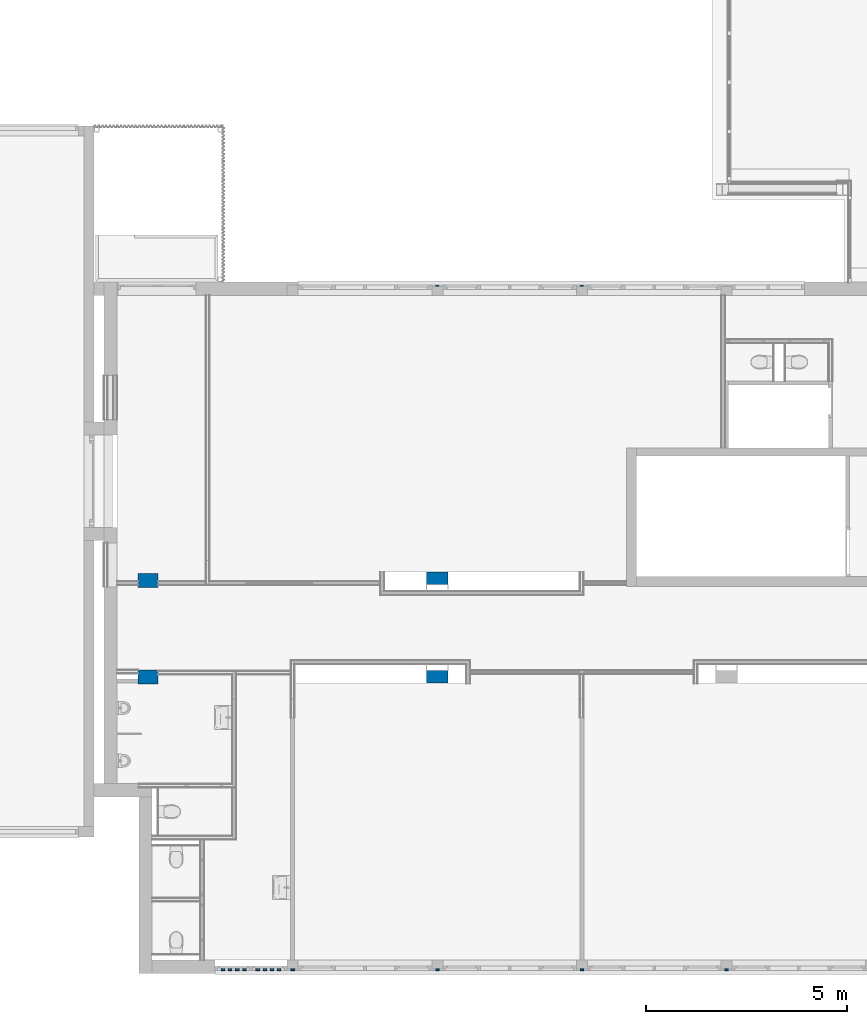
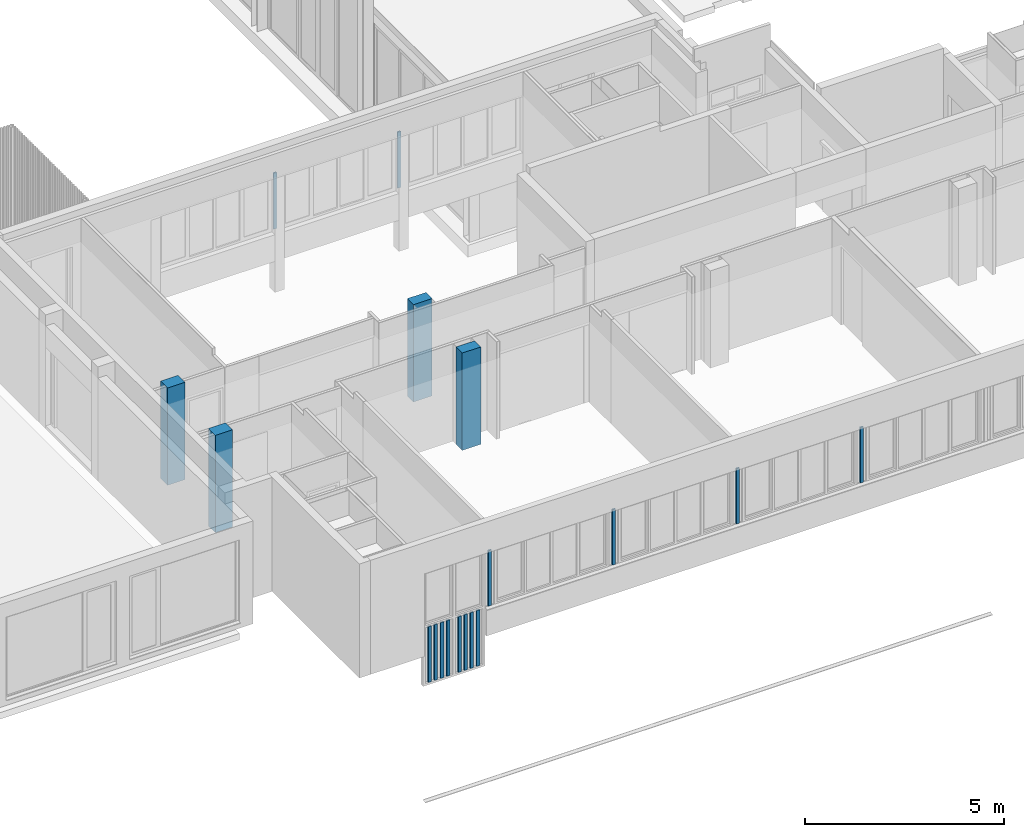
# One storey, part 11 of 99: 18 columns.
"""IFC2X3 building model written with IfcOpenShell, lengths in millimetres."""

from ifc_helpers import new_model, entity, si_unit, converted_unit, derived_unit, money_unit, direction, frame, origin_with_axes, place, context, subcontext, project, spatial, faceted_brep, material, type_object, element, save


model = new_model("IFC2X3")

# Units and contexts
model_context = context("Model", 3, precision=0.01, world=origin_with_axes(), true_north=direction((0.0, 1.0)))
body_context = subcontext(model_context, "Body", "Model", "MODEL_VIEW")
ifc_project = project(units=[si_unit("LENGTHUNIT", "METRE", prefix="MILLI"), si_unit("AREAUNIT", "SQUARE_METRE"), si_unit("VOLUMEUNIT", "CUBIC_METRE"), converted_unit("PLANEANGLEUNIT", "DEGREE", entity("IfcPlaneAngleMeasure", 0.0174532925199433), si_unit("PLANEANGLEUNIT", "RADIAN"), dimensions=[0, 0, 0, 0, 0, 0, 0]), money_unit("EUR"), converted_unit("TIMEUNIT", "Year", entity("IfcTimeMeasure", 31557600.0), si_unit("TIMEUNIT", "SECOND"), dimensions=[0, 0, 1, 0, 0, 0, 0]), si_unit("MASSUNIT", "GRAM", prefix="KILO"), si_unit("THERMODYNAMICTEMPERATUREUNIT", "DEGREE_CELSIUS"), si_unit("LUMINOUSINTENSITYUNIT", "LUMEN"), si_unit("ENERGYUNIT", "JOULE", prefix="MEGA"), derived_unit("THERMALCONDUCTANCEUNIT", [(si_unit("POWERUNIT", "WATT"), 1), (si_unit("LENGTHUNIT", "METRE"), -1), (si_unit("THERMODYNAMICTEMPERATUREUNIT", "KELVIN"), -1)]), derived_unit("SPECIFICHEATCAPACITYUNIT", [(si_unit("ENERGYUNIT", "JOULE"), 1), (si_unit("MASSUNIT", "GRAM", prefix="KILO"), -1), (si_unit("THERMODYNAMICTEMPERATUREUNIT", "KELVIN"), -1)]), derived_unit("MASSDENSITYUNIT", [(si_unit("MASSUNIT", "GRAM", prefix="KILO"), 1), (si_unit("VOLUMEUNIT", "CUBIC_METRE"), -1)])], contexts=[model_context])

# Site, building, storey
site_placement = place(None, origin_with_axes())
site = spatial("IfcSite", under=ifc_project, at=site_placement, Name="Site", CompositionType="ELEMENT")
building_placement = place(site_placement, origin_with_axes())
building = spatial("IfcBuilding", under=site, at=building_placement, Name="Naam gebouw", CompositionType="ELEMENT")
storey_placement = place(building_placement, frame((0.0, 0.0, 7650.0), z_axis=(0.0, 0.0, 1.0), x_axis=(1.0, 0.0, 0.0)))
storey = spatial("IfcBuildingStorey", under=building, at=storey_placement, Name="2e verdieping N", CompositionType="ELEMENT", Elevation=7650.0)

# Columns
ifc_material_1 = material(Name="Metaal - Staal C")
column_type_1 = type_object("IfcColumnType", Name="Metaal - Staal C 90 x 44", PredefinedType="COLUMN")
column_1_placement = place(storey_placement, frame((10800.0, 3207.668707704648, 737.6344147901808), z_axis=(0.0, 0.0, 1.0), x_axis=(1.0, 0.0, 0.0)))
element("IfcColumn", 1, at=column_1_placement, inside=storey, type_object=column_type_1, material=ifc_material_1, Name="_Kolom-x", ObjectType="COLUMN", context=body_context, shape_type="Brep", body=[
    faceted_brep([(44.99999999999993, -21.9999999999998, 0.0), (45.00000000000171, -17.00973599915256, 0.879918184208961), (45.00000000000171, -17.00973599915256, 10.87991818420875), (45.00000000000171, -15.00973599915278, 10.87991818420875), (44.99999999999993, -15.00973599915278, 0.0), (44.99999999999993, 21.9999999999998, 0.0), (44.99999999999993, 21.9999999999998, 1702.36558520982), (44.99999999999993, -21.9999999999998, 1702.36558520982), (-44.99999999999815, -17.00973599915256, 0.879918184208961), (-44.99999999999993, -21.9999999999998, 0.0), (-44.99999999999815, -17.00973599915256, 10.87991818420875), (-44.99999999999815, -15.00973599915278, 10.87991818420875), (-44.99999999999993, -15.00973599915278, 0.0), (-44.99999999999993, 21.9999999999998, 0.0), (-44.99999999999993, 21.9999999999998, 1702.36558520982), (-44.99999999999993, -21.9999999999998, 1702.36558520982)], [[[0, 1, 2, 3, 4, 5, 6, 7]], [[8, 1, 0, 9]], [[10, 2, 1, 8]], [[11, 3, 2, 10]], [[12, 4, 3, 11]], [[5, 4, 12, 13]], [[14, 6, 5, 13]], [[6, 14, 15, 7]], [[15, 9, 0, 7]], [[10, 8, 9, 15, 14, 13, 12, 11]]]),
])
column_2_placement = place(storey_placement, frame((14399.99999999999, 3207.668707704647, 737.6344147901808), z_axis=(0.0, 0.0, 1.0), x_axis=(1.0, 0.0, 0.0)))
element("IfcColumn", 2, at=column_2_placement, inside=storey, type_object=column_type_1, material=ifc_material_1, Name="_Kolom-x", ObjectType="COLUMN", context=body_context, shape_type="Brep", body=[
    faceted_brep([(44.99999999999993, -21.9999999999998, 0.0), (44.99999999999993, -17.00973599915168, 0.879918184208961), (44.99999999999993, -17.00973599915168, 10.87991818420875), (44.99999999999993, -15.0097359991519, 10.87991818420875), (44.99999999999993, -15.0097359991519, 0.0), (44.99999999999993, 21.9999999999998, 0.0), (44.99999999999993, 21.9999999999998, 1702.36558520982), (44.99999999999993, -21.9999999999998, 1702.36558520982), (-44.99999999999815, -17.00973599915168, 0.879918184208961), (-44.99999999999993, -21.9999999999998, 0.0), (-44.99999999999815, -17.00973599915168, 10.87991818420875), (-44.99999999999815, -15.0097359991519, 10.87991818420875), (-44.99999999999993, -15.0097359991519, 0.0), (-44.99999999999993, 21.9999999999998, 0.0), (-44.99999999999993, 21.9999999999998, 1702.36558520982), (-44.99999999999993, -21.9999999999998, 1702.36558520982)], [[[0, 1, 2, 3, 4, 5, 6, 7]], [[8, 1, 0, 9]], [[10, 2, 1, 8]], [[11, 3, 2, 10]], [[12, 4, 3, 11]], [[5, 4, 12, 13]], [[14, 6, 5, 13]], [[6, 14, 15, 7]], [[15, 9, 0, 7]], [[10, 8, 9, 15, 14, 13, 12, 11]]]),
])
column_3_placement = place(storey_placement, frame((3600.000000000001, 3207.668707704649, 737.6344147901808), z_axis=(0.0, 0.0, 1.0), x_axis=(1.0, 0.0, 0.0)))
element("IfcColumn", 3, at=column_3_placement, inside=storey, type_object=column_type_1, material=ifc_material_1, Name="_Kolom-x", ObjectType="COLUMN", context=body_context, shape_type="Brep", body=[
    faceted_brep([(44.99999999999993, -21.9999999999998, 0.0), (45.00000000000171, -17.00973599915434, 0.879918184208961), (45.00000000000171, -17.00973599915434, 10.87991818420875), (45.00000000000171, -15.00973599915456, 10.87991818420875), (44.99999999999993, -15.00973599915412, 0.0), (44.99999999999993, 21.9999999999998, 0.0), (44.99999999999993, 21.9999999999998, 1702.36558520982), (44.99999999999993, -21.9999999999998, 1702.36558520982), (-44.99999999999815, -17.00973599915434, 0.879918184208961), (-44.99999999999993, -21.9999999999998, 0.0), (-44.99999999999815, -17.00973599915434, 10.87991818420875), (-44.99999999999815, -15.00973599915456, 10.87991818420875), (-44.99999999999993, -15.00973599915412, 0.0), (-44.99999999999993, 21.9999999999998, 0.0), (-44.99999999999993, 21.9999999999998, 1702.36558520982), (-44.99999999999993, -21.9999999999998, 1702.36558520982)], [[[0, 1, 2, 3, 4, 5, 6, 7]], [[8, 1, 0, 9]], [[10, 2, 1, 8]], [[11, 3, 2, 10]], [[12, 4, 3, 11]], [[5, 4, 12, 13]], [[14, 6, 5, 13]], [[6, 14, 15, 7]], [[15, 9, 0, 7]], [[10, 8, 9, 15, 14, 13, 12, 11]]]),
])
column_4_placement = place(storey_placement, frame((7200.000000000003, 3207.668707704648, 737.6344147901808), z_axis=(0.0, 0.0, 1.0), x_axis=(1.0, 0.0, 0.0)))
element("IfcColumn", 4, at=column_4_placement, inside=storey, type_object=column_type_1, material=ifc_material_1, Name="_Kolom-x", ObjectType="COLUMN", context=body_context, shape_type="Brep", body=[
    faceted_brep([(44.99999999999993, -21.9999999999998, 0.0), (45.00000000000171, -17.00973599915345, 0.879918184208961), (45.00000000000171, -17.00973599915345, 10.87991818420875), (45.00000000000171, -15.00973599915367, 10.87991818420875), (44.99999999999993, -15.00973599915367, 0.0), (44.99999999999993, 21.9999999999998, 0.0), (44.99999999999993, 21.9999999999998, 1702.36558520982), (44.99999999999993, -21.9999999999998, 1702.36558520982), (-44.99999999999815, -17.00973599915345, 0.879918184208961), (-44.99999999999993, -21.9999999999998, 0.0), (-44.99999999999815, -17.00973599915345, 10.87991818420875), (-44.99999999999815, -15.00973599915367, 10.87991818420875), (-44.99999999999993, -15.00973599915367, 0.0), (-44.99999999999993, 21.9999999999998, 0.0), (-44.99999999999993, 21.9999999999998, 1702.36558520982), (-44.99999999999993, -21.9999999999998, 1702.36558520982)], [[[0, 1, 2, 3, 4, 5, 6, 7]], [[8, 1, 0, 9]], [[10, 2, 1, 8]], [[11, 3, 2, 10]], [[12, 4, 3, 11]], [[5, 4, 12, 13]], [[14, 6, 5, 13]], [[6, 14, 15, 7]], [[15, 9, 0, 7]], [[10, 8, 9, 15, 14, 13, 12, 11]]]),
])
for number, where, z_axis, x_axis, name in (
    (5, (3262.248759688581, 3207.668707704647, -993.0000000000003), (0.0, 0.0, 1.0), (1.0, 0.0, 0.0), "_Kolom-x"),
    (6, (3084.582093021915, 3207.668707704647, -993.0000000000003), (0.0, 0.0, 1.0), (1.0, 0.0, 0.0), "_Kolom-x"),
    (7, (2906.915426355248, 3207.668707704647, -993.0000000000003), (0.0, 0.0, 1.0), (1.0, 0.0, 0.0), "_Kolom-x"),
    (8, (2729.248759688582, 3207.668707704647, -993.0000000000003), (0.0, 0.0, 1.0), (1.0, 0.0, 0.0), "_Kolom-x"),
    (9, (2218.082093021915, 3207.668707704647, -993.0000000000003), (0.0, 0.0, 1.0), (1.0, 0.0, 0.0), "_Kolom-x"),
    (10, (2395.748759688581, 3207.668707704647, -993.0000000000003), (0.0, 0.0, 1.0), (1.0, 0.0, 0.0), "_Kolom-x"),
    (11, (2040.415426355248, 3207.668707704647, -993.0000000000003), (0.0, 0.0, 1.0), (1.0, 0.0, 0.0), "_Kolom-x"),
    (12, (1862.748759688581, 3207.668707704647, -993.0000000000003), (0.0, 0.0, 1.0), (1.0, 0.0, 0.0), "_Kolom-x"),
):
    element("IfcColumn", number, at=place(storey_placement, frame(where, z_axis=z_axis, x_axis=x_axis)), inside=storey, type_object=column_type_1, material=ifc_material_1, Name=name, ObjectType="COLUMN", context=body_context, shape_type="Brep", body=[
        faceted_brep([(-44.99999999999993, -21.9999999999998, 1713.000000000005), (-44.99999999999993, -21.9999999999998, 0.0), (44.99999999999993, -21.9999999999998, 0.0), (44.99999999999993, -21.9999999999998, 1713.000000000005), (-44.99999999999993, 21.9999999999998, 1713.000000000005), (-44.99999999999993, 21.9999999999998, 0.0), (44.99999999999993, 21.9999999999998, 0.0), (44.99999999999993, 21.9999999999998, 1713.000000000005)], [[[0, 1, 2, 3]], [[4, 5, 1, 0]], [[2, 1, 5, 6]], [[3, 2, 6, 7]], [[4, 0, 3, 7]], [[7, 6, 5, 4]]]),
    ])
column_5_placement = place(storey_placement, frame((7199.999999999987, 20233.85731192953, 719.9999999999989), z_axis=(0.0, 0.0, 1.0), x_axis=(-1.0, 0.0, 0.0)))
element("IfcColumn", 13, at=column_5_placement, inside=storey, type_object=column_type_1, material=ifc_material_1, Name="_Kolom-x", ObjectType="COLUMN", context=body_context, shape_type="Brep", body=[
    faceted_brep([(-44.99999999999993, -15.04634950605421, 28.51433297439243), (-44.99999999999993, -17.0463495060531, 28.51433297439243), (-44.99999999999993, -17.0463495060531, 18.51433297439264), (-44.99999999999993, -21.99999999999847, 17.64087073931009), (-44.99999999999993, -21.99999999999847, 1720.000000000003), (-44.99999999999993, 21.99999999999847, 1720.000000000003), (-44.99999999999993, 21.99999999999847, 0.0), (-44.99999999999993, -21.99999999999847, 0.0), (-44.99999999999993, -21.99999999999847, 15.61001751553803), (-44.99999999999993, -15.04634950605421, 16.83613371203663), (44.99999999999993, -17.04633997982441, 28.51433297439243), (44.99999999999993, -15.04633997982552, 28.51433297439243), (44.99999999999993, -17.04633997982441, 18.51433297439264), (44.99999999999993, -21.99999999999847, 17.64086905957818), (44.99999999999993, -21.99999999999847, 1720.000000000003), (44.99999999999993, 21.99999999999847, 1720.000000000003), (44.99999999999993, 21.99999999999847, 0.0), (44.99999999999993, -21.99999999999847, 0.0), (44.99999999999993, -21.99999999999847, 15.61001583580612), (44.99999999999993, -15.04633997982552, 16.83613371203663)], [[[0, 1, 2, 3, 4, 5, 6, 7, 8, 9]], [[10, 1, 0, 11]], [[12, 2, 1, 10]], [[12, 13, 3, 2]], [[4, 3, 13, 14]], [[15, 5, 4, 14]], [[5, 15, 16, 6]], [[16, 17, 7, 6]], [[17, 18, 8, 7]], [[19, 9, 8, 18]], [[11, 0, 9, 19]], [[11, 19, 18, 17, 16, 15, 14, 13, 12, 10]]]),
])
column_6_placement = place(storey_placement, frame((10799.99865604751, 20233.8744985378, 719.9999999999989), z_axis=(0.0, 0.0, 1.0), x_axis=(-1.0, 0.0, 0.0)))
element("IfcColumn", 14, at=column_6_placement, inside=storey, type_object=column_type_1, material=ifc_material_1, Name="_Kolom-x", ObjectType="COLUMN", context=body_context, shape_type="Brep", body=[
    faceted_brep([(-45.00000000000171, -15.02954394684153, 28.51433297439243), (-44.99999999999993, -17.02954394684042, 28.51433297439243), (-44.99999999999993, -17.02954394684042, 18.51433297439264), (-44.99999999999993, -21.99999999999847, 17.63790746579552), (-44.99999999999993, -21.99999999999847, 1720.000000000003), (-44.99999999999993, 21.99999999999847, 1720.000000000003), (-44.99999999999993, 21.99999999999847, 0.0), (-44.99999999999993, -21.99999999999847, 0.0), (-44.99999999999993, -21.99999999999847, 15.60705424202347), (-45.00000000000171, -15.02954394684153, 16.83613371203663), (44.99999999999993, -17.02953442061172, 28.51433297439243), (45.00000000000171, -15.02953442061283, 28.51433297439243), (44.99999999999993, -17.02953442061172, 18.51433297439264), (44.99999999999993, -21.99999999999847, 17.63790578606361), (44.99999999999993, -21.99999999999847, 1720.000000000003), (44.99999999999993, 21.99999999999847, 1720.000000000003), (44.99999999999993, 21.99999999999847, 0.0), (44.99999999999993, -21.99999999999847, 0.0), (44.99999999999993, -21.99999999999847, 15.60705256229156), (45.00000000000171, -15.02953442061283, 16.83613371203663)], [[[0, 1, 2, 3, 4, 5, 6, 7, 8, 9]], [[10, 1, 0, 11]], [[12, 2, 1, 10]], [[12, 13, 3, 2]], [[4, 3, 13, 14]], [[15, 5, 4, 14]], [[5, 15, 16, 6]], [[16, 17, 7, 6]], [[17, 18, 8, 7]], [[19, 9, 8, 18]], [[11, 0, 9, 19]], [[11, 19, 18, 17, 16, 15, 14, 13, 12, 10]]]),
])
ifc_material_2 = material(Name="ALG - CONSTRUCTIEF")
column_type_2 = type_object("IfcColumnType", Name="ALG - CONSTRUCTIEF 500 x 355", PredefinedType="COLUMN")
column_7_placement = place(storey_placement, frame((0.0, 12895.91242510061, -99.99999999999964), z_axis=(0.0, 0.0, 1.0), x_axis=(1.0, 0.0, 0.0)))
element("IfcColumn", 15, at=column_7_placement, inside=storey, type_object=column_type_2, material=ifc_material_2, Name="_Kolom-x", ObjectType="COLUMN", context=body_context, shape_type="Brep", body=[
    faceted_brep([(249.9999999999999, -177.5000000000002, 3089.999999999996), (249.9999999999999, -177.5000000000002, 99.99999999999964), (249.9999999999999, 177.5000000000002, 99.99999999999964), (249.9999999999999, 177.5000000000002, 3089.999999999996), (-250.0000000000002, -177.5000000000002, 3089.999999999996), (-250.0000000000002, -177.5000000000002, 99.99999999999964), (-250.0000000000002, 177.5000000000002, 99.99999999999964), (-250.0000000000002, 177.5000000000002, 3089.999999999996)], [[[0, 1, 2, 3]], [[4, 5, 1, 0]], [[5, 6, 2, 1]], [[3, 2, 6, 7]], [[4, 0, 3, 7]], [[7, 6, 5, 4]]]),
])
column_8_placement = place(storey_placement, frame((0.0, 10495.91242510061, -99.99999999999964), z_axis=(0.0, 0.0, 1.0), x_axis=(1.0, 0.0, 0.0)))
element("IfcColumn", 16, at=column_8_placement, inside=storey, type_object=column_type_2, material=ifc_material_2, Name="_Kolom-x", ObjectType="COLUMN", context=body_context, shape_type="Brep", body=[
    faceted_brep([(250.0, -177.5000000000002, 3089.999999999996), (250.0, -177.5000000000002, 99.99999999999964), (250.0, 177.5000000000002, 99.99999999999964), (250.0, 177.5000000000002, 3089.999999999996), (-250.0, -177.5000000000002, 3089.999999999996), (-250.0, -177.5000000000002, 99.99999999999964), (-250.0, 177.5000000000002, 99.99999999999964), (-250.0, 177.5000000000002, 3089.999999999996)], [[[0, 1, 2, 3]], [[4, 5, 1, 0]], [[5, 6, 2, 1]], [[3, 2, 6, 7]], [[4, 0, 3, 7]], [[7, 6, 5, 4]]]),
])
column_type_3 = type_object("IfcColumnType", Name="ALG - CONSTRUCTIEF 540 x 310", PredefinedType="COLUMN")
for number, where, z_axis, x_axis, name in (
    (17, (7199.999999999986, 12945.85635739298, -99.99999999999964), (0.0, 0.0, 1.0), (1.0, 0.0, 0.0), "_Kolom-x"),
    (18, (7200.0, 10495.91242510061, -99.99999999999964), (0.0, 0.0, 1.0), (1.0, 0.0, 0.0), "_Kolom-x"),
):
    element("IfcColumn", number, at=place(storey_placement, frame(where, z_axis=z_axis, x_axis=x_axis)), inside=storey, type_object=column_type_3, material=ifc_material_2, Name=name, ObjectType="COLUMN", context=body_context, shape_type="Brep", body=[
        faceted_brep([(269.9999999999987, -154.9999999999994, 3089.999999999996), (269.9999999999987, -154.9999999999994, 99.99999999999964), (269.9999999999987, 154.9999999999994, 99.99999999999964), (269.9999999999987, 154.9999999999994, 3089.999999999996), (-270.0000000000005, -154.9999999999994, 3089.999999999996), (-270.0000000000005, -154.9999999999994, 99.99999999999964), (-270.0000000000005, 154.9999999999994, 99.99999999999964), (-270.0000000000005, 154.9999999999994, 3089.999999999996)], [[[0, 1, 2, 3]], [[4, 5, 1, 0]], [[5, 6, 2, 1]], [[3, 2, 6, 7]], [[4, 0, 3, 7]], [[7, 6, 5, 4]]]),
    ])

save(model, "model.ifc")
